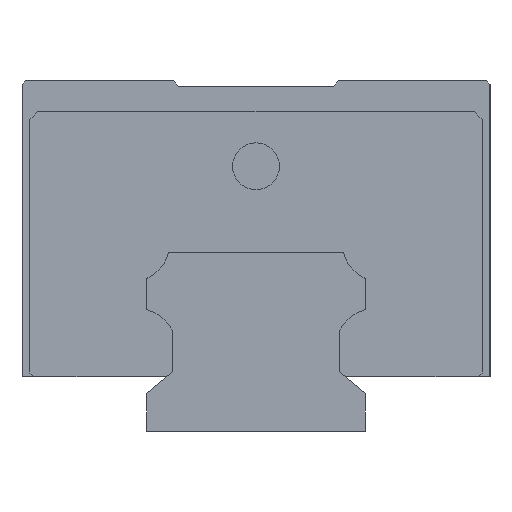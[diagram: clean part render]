
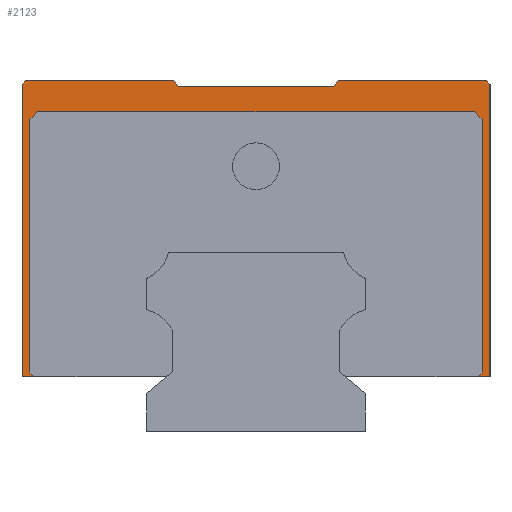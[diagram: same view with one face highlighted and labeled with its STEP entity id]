
A CAD part, left-side view. The second image highlights one B-rep face of the part: STEP entity #2123.
In plain terms, the highlighted planar face has unit normal (-1, 0, 0).
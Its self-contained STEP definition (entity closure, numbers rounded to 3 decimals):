
#57 = CARTESIAN_POINT ( 'NONE',  ( -52.5, 29., 7.5 ) ) ;
#68 = ORIENTED_EDGE ( 'NONE', *, *, #2643, .F. ) ;
#84 = LINE ( 'NONE', #4224, #4520 ) ;
#106 = CARTESIAN_POINT ( 'NONE',  ( -52.5, 28., 41. ) ) ;
#132 = EDGE_CURVE ( 'NONE', #4543, #3559, #3530, .T. ) ;
#157 = CARTESIAN_POINT ( 'NONE',  ( -52.5, -30., 44.5 ) ) ;
#191 = VERTEX_POINT ( 'NONE', #3553 ) ;
#224 = DIRECTION ( 'NONE',  ( 0., 0.643, -0.766 ) ) ;
#233 = CARTESIAN_POINT ( 'NONE',  ( -52.5, 28.5, 7. ) ) ;
#239 = CARTESIAN_POINT ( 'NONE',  ( -52.5, 29., 7.5 ) ) ;
#341 = VERTEX_POINT ( 'NONE', #4678 ) ;
#456 = EDGE_CURVE ( 'NONE', #4481, #952, #5198, .T. ) ;
#591 = ORIENTED_EDGE ( 'NONE', *, *, #5537, .T. ) ;
#652 = DIRECTION ( 'NONE',  ( 0., -1., 0. ) ) ;
#675 = DIRECTION ( 'NONE',  ( 0., -1., 0. ) ) ;
#756 = DIRECTION ( 'NONE',  ( 0., 0.707, 0.707 ) ) ;
#762 = VECTOR ( 'NONE', #2724, 1000. ) ;
#802 = VERTEX_POINT ( 'NONE', #1036 ) ;
#836 = DIRECTION ( 'NONE',  ( 0., 1., 0. ) ) ;
#893 = LINE ( 'NONE', #2688, #4914 ) ;
#952 = VERTEX_POINT ( 'NONE', #3953 ) ;
#963 = ORIENTED_EDGE ( 'NONE', *, *, #2136, .F. ) ;
#1023 = VERTEX_POINT ( 'NONE', #4134 ) ;
#1036 = CARTESIAN_POINT ( 'NONE',  ( -52.5, 29., 40. ) ) ;
#1037 = DIRECTION ( 'NONE',  ( 0., 0.707, 0.707 ) ) ;
#1040 = VECTOR ( 'NONE', #4523, 1000. ) ;
#1041 = CARTESIAN_POINT ( 'NONE',  ( -52.5, -10.629, 45. ) ) ;
#1058 = VERTEX_POINT ( 'NONE', #1041 ) ;
#1071 = VECTOR ( 'NONE', #2057, 1000. ) ;
#1077 = CARTESIAN_POINT ( 'NONE',  ( -52.5, 29.5, 45. ) ) ;
#1162 = CARTESIAN_POINT ( 'NONE',  ( -52.5, -10.629, 45. ) ) ;
#1177 = VECTOR ( 'NONE', #756, 1000. ) ;
#1287 = LINE ( 'NONE', #5775, #1040 ) ;
#1337 = EDGE_CURVE ( 'NONE', #2107, #3485, #893, .T. ) ;
#1407 = ORIENTED_EDGE ( 'NONE', *, *, #3948, .F. ) ;
#1436 = VERTEX_POINT ( 'NONE', #4101 ) ;
#1465 = CARTESIAN_POINT ( 'NONE',  ( -52.5, 30., 45. ) ) ;
#1522 = DIRECTION ( 'NONE',  ( 0., 0., -1. ) ) ;
#1547 = LINE ( 'NONE', #1162, #4453 ) ;
#1582 = CARTESIAN_POINT ( 'NONE',  ( -52.5, 30., 7. ) ) ;
#1622 = LINE ( 'NONE', #3420, #1071 ) ;
#1670 = DIRECTION ( 'NONE',  ( 0., 0., 1. ) ) ;
#1698 = PLANE ( 'NONE',  #2004 ) ;
#1778 = CARTESIAN_POINT ( 'NONE',  ( -52.5, -30., 45. ) ) ;
#1787 = VERTEX_POINT ( 'NONE', #157 ) ;
#1850 = CARTESIAN_POINT ( 'NONE',  ( -52.5, -28., 41. ) ) ;
#1856 = VERTEX_POINT ( 'NONE', #4568 ) ;
#1948 = EDGE_CURVE ( 'NONE', #4961, #952, #5197, .T. ) ;
#1954 = ORIENTED_EDGE ( 'NONE', *, *, #132, .T. ) ;
#1960 = LINE ( 'NONE', #5556, #5292 ) ;
#1987 = DIRECTION ( 'NONE',  ( 0., 0.643, 0.766 ) ) ;
#1998 = DIRECTION ( 'NONE',  ( 0., 0., 1. ) ) ;
#2004 = AXIS2_PLACEMENT_3D ( 'NONE', #1778, #3491, #3523 ) ;
#2037 = ORIENTED_EDGE ( 'NONE', *, *, #456, .F. ) ;
#2042 = LINE ( 'NONE', #2069, #3966 ) ;
#2057 = DIRECTION ( 'NONE',  ( 0., 0., -1. ) ) ;
#2069 = CARTESIAN_POINT ( 'NONE',  ( -52.5, 30., 45. ) ) ;
#2095 = ORIENTED_EDGE ( 'NONE', *, *, #4119, .T. ) ;
#2105 = VECTOR ( 'NONE', #1037, 1000. ) ;
#2107 = VERTEX_POINT ( 'NONE', #5343 ) ;
#2123 = ADVANCED_FACE ( 'NONE', ( #5735 ), #1698, .F. ) ;
#2136 = EDGE_CURVE ( 'NONE', #1023, #4481, #3078, .T. ) ;
#2204 = LINE ( 'NONE', #3552, #4615 ) ;
#2297 = EDGE_CURVE ( 'NONE', #1058, #191, #1547, .T. ) ;
#2305 = LINE ( 'NONE', #2753, #2105 ) ;
#2379 = EDGE_CURVE ( 'NONE', #1058, #1436, #2042, .T. ) ;
#2413 = LINE ( 'NONE', #1465, #3797 ) ;
#2623 = EDGE_CURVE ( 'NONE', #191, #341, #2204, .T. ) ;
#2643 = EDGE_CURVE ( 'NONE', #1856, #3485, #1287, .T. ) ;
#2688 = CARTESIAN_POINT ( 'NONE',  ( -52.5, -29., 7.5 ) ) ;
#2724 = DIRECTION ( 'NONE',  ( 0., -0.707, -0.707 ) ) ;
#2738 = EDGE_CURVE ( 'NONE', #341, #5299, #84, .T. ) ;
#2753 = CARTESIAN_POINT ( 'NONE',  ( -52.5, -30., 44.5 ) ) ;
#2951 = ORIENTED_EDGE ( 'NONE', *, *, #4665, .F. ) ;
#3001 = CARTESIAN_POINT ( 'NONE',  ( -52.5, -28.5, 7. ) ) ;
#3078 = LINE ( 'NONE', #4879, #5301 ) ;
#3201 = ORIENTED_EDGE ( 'NONE', *, *, #5416, .T. ) ;
#3298 = ORIENTED_EDGE ( 'NONE', *, *, #2297, .T. ) ;
#3302 = ORIENTED_EDGE ( 'NONE', *, *, #4789, .T. ) ;
#3420 = CARTESIAN_POINT ( 'NONE',  ( -52.5, -29., 40. ) ) ;
#3485 = VERTEX_POINT ( 'NONE', #3001 ) ;
#3491 = DIRECTION ( 'NONE',  ( 1., 0., 0. ) ) ;
#3523 = DIRECTION ( 'NONE',  ( 0., 1., 0. ) ) ;
#3529 = DIRECTION ( 'NONE',  ( 0., 1., 0. ) ) ;
#3530 = LINE ( 'NONE', #4444, #762 ) ;
#3552 = CARTESIAN_POINT ( 'NONE',  ( -52.5, -10., 44.25 ) ) ;
#3553 = CARTESIAN_POINT ( 'NONE',  ( -52.5, -10., 44.25 ) ) ;
#3559 = VERTEX_POINT ( 'NONE', #3914 ) ;
#3769 = CARTESIAN_POINT ( 'NONE',  ( -52.5, 28., 41. ) ) ;
#3785 = CARTESIAN_POINT ( 'NONE',  ( -52.5, 29.5, 45. ) ) ;
#3797 = VECTOR ( 'NONE', #675, 1000. ) ;
#3867 = DIRECTION ( 'NONE',  ( 0., -1., 0. ) ) ;
#3914 = CARTESIAN_POINT ( 'NONE',  ( -52.5, -29., 40. ) ) ;
#3944 = CARTESIAN_POINT ( 'NONE',  ( -52.5, 30., 7. ) ) ;
#3948 = EDGE_CURVE ( 'NONE', #1787, #1856, #5591, .T. ) ;
#3953 = CARTESIAN_POINT ( 'NONE',  ( -52.5, 30., 44.5 ) ) ;
#3966 = VECTOR ( 'NONE', #3867, 1000. ) ;
#3987 = ORIENTED_EDGE ( 'NONE', *, *, #2738, .T. ) ;
#4101 = CARTESIAN_POINT ( 'NONE',  ( -52.5, -29.5, 45. ) ) ;
#4119 = EDGE_CURVE ( 'NONE', #1023, #4831, #4793, .T. ) ;
#4134 = CARTESIAN_POINT ( 'NONE',  ( -52.5, 28.5, 7. ) ) ;
#4154 = VECTOR ( 'NONE', #652, 1000. ) ;
#4217 = ORIENTED_EDGE ( 'NONE', *, *, #2623, .T. ) ;
#4224 = CARTESIAN_POINT ( 'NONE',  ( -52.5, 10., 44.25 ) ) ;
#4352 = DIRECTION ( 'NONE',  ( 0., 0.707, -0.707 ) ) ;
#4362 = EDGE_CURVE ( 'NONE', #1787, #1436, #2305, .T. ) ;
#4444 = CARTESIAN_POINT ( 'NONE',  ( -52.5, -28., 41. ) ) ;
#4453 = VECTOR ( 'NONE', #224, 1000. ) ;
#4481 = VERTEX_POINT ( 'NONE', #3944 ) ;
#4504 = ORIENTED_EDGE ( 'NONE', *, *, #1948, .T. ) ;
#4520 = VECTOR ( 'NONE', #1987, 1000. ) ;
#4523 = DIRECTION ( 'NONE',  ( 0., 1., 0. ) ) ;
#4543 = VERTEX_POINT ( 'NONE', #1850 ) ;
#4568 = CARTESIAN_POINT ( 'NONE',  ( -52.5, -30., 7. ) ) ;
#4584 = CARTESIAN_POINT ( 'NONE',  ( -52.5, -30., 45. ) ) ;
#4615 = VECTOR ( 'NONE', #3529, 1000. ) ;
#4655 = EDGE_CURVE ( 'NONE', #4831, #802, #5088, .T. ) ;
#4665 = EDGE_CURVE ( 'NONE', #4961, #5299, #2413, .T. ) ;
#4678 = CARTESIAN_POINT ( 'NONE',  ( -52.5, 10., 44.25 ) ) ;
#4700 = ORIENTED_EDGE ( 'NONE', *, *, #2379, .F. ) ;
#4749 = ORIENTED_EDGE ( 'NONE', *, *, #4362, .T. ) ;
#4789 = EDGE_CURVE ( 'NONE', #3559, #2107, #1622, .T. ) ;
#4793 = LINE ( 'NONE', #233, #1177 ) ;
#4831 = VERTEX_POINT ( 'NONE', #57 ) ;
#4879 = CARTESIAN_POINT ( 'NONE',  ( -52.5, 11.769, 7. ) ) ;
#4895 = ORIENTED_EDGE ( 'NONE', *, *, #4655, .T. ) ;
#4914 = VECTOR ( 'NONE', #5317, 1000. ) ;
#4961 = VERTEX_POINT ( 'NONE', #1077 ) ;
#4977 = CARTESIAN_POINT ( 'NONE',  ( -52.5, 10.629, 45. ) ) ;
#5057 = VERTEX_POINT ( 'NONE', #106 ) ;
#5063 = LINE ( 'NONE', #3769, #4154 ) ;
#5065 = VECTOR ( 'NONE', #1670, 1000. ) ;
#5076 = VECTOR ( 'NONE', #4352, 1000. ) ;
#5088 = LINE ( 'NONE', #239, #5398 ) ;
#5197 = LINE ( 'NONE', #3785, #5076 ) ;
#5198 = LINE ( 'NONE', #1582, #5065 ) ;
#5258 = ORIENTED_EDGE ( 'NONE', *, *, #1337, .T. ) ;
#5292 = VECTOR ( 'NONE', #5620, 1000. ) ;
#5299 = VERTEX_POINT ( 'NONE', #4977 ) ;
#5301 = VECTOR ( 'NONE', #836, 1000. ) ;
#5317 = DIRECTION ( 'NONE',  ( 0., 0.707, -0.707 ) ) ;
#5343 = CARTESIAN_POINT ( 'NONE',  ( -52.5, -29., 7.5 ) ) ;
#5398 = VECTOR ( 'NONE', #1998, 1000. ) ;
#5416 = EDGE_CURVE ( 'NONE', #5057, #4543, #5063, .T. ) ;
#5507 = VECTOR ( 'NONE', #1522, 1000. ) ;
#5537 = EDGE_CURVE ( 'NONE', #802, #5057, #1960, .T. ) ;
#5550 = EDGE_LOOP ( 'NONE', ( #963, #2095, #4895, #591, #3201, #1954, #3302, #5258, #68, #1407, #4749, #4700, #3298, #4217, #3987, #2951, #4504, #2037 ) ) ;
#5556 = CARTESIAN_POINT ( 'NONE',  ( -52.5, 29., 40. ) ) ;
#5591 = LINE ( 'NONE', #4584, #5507 ) ;
#5620 = DIRECTION ( 'NONE',  ( 0., -0.707, 0.707 ) ) ;
#5735 = FACE_OUTER_BOUND ( 'NONE', #5550, .T. ) ;
#5775 = CARTESIAN_POINT ( 'NONE',  ( -52.5, -30., 7. ) ) ;
